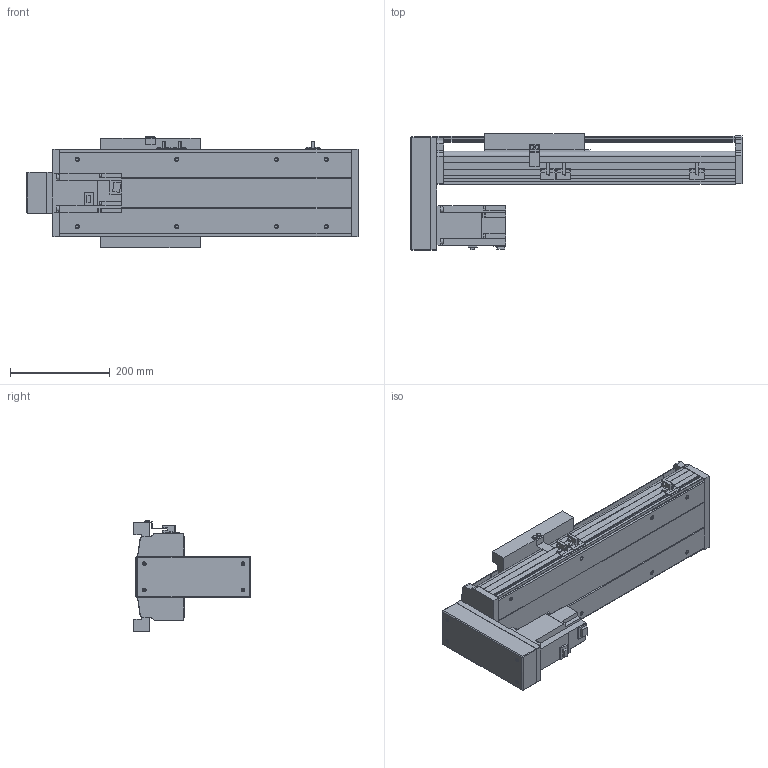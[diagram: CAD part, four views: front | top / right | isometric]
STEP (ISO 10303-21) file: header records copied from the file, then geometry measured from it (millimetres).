
FILE_DESCRIPTION( ( 'STEP AP214' ), '1' );
FILE_NAME( 'x:/temp/worker_27/temp/exporttempdir_6708_420_0wU4X/format_0/PSS200-L10-S250-BM-T75-C1-N(0).stp', '2022-06-06T02:44:21', ( 'License CC BY-ND 4.0' ), ( 'CADENAS' ), ' ', 'PARTsolutions', ' ' );
FILE_SCHEMA( ( 'AUTOMOTIVE_DESIGN { 1 0 10303 214 1 1 1 1 }' ) );
Length unit declared in the file: millimetre
Products named in the file (8): PSS200-L10-S250-BM-T75-C1-N(0); _PSS200-S250-BM-C1-N_body; _PSS200-N_Q; _PSS200-BM-C1-N_sl; _PSS200-N_sensor; _PSS200BM-N_h; _T75-p1; _PSS200-S250-BM-N_S
Assembly tree (9 placements, depth 2):
  PSS200-L10-S250-BM-T75-C1-N(0)
    _PSS200-S250-BM-C1-N_body
    _PSS200-N_Q
    _PSS200-BM-C1-N_sl
    _PSS200-N_sensor  x3
    _PSS200BM-N_h
    _T75-p1
    _PSS200-S250-BM-N_S
Bounding box: 666.85 x 234.45 x 223.86 mm (x, y, z)
Volume: 5910713.9 mm3; surface area: 1193227.7 mm2
Topology: 9 solids, 9 shells, 590 faces, 1577 edges, 1046 vertices
Faces by surface type: plane 452, cylinder 118, cone 16, sphere 4
Full cylindrical faces by diameter (mm): 4 x2, 4.5 x4, 6 x7, 6.647 x12, 7.4 x4, 8 x8, 10 x6, 25 x1, 40 x1, 67 x1
Entity records: 20669 total; most frequent: CARTESIAN_POINT 2869, DIRECTION 2707, ORIENTED_EDGE 2698, EDGE_CURVE 1349, LINE 1071, VECTOR 1071, VERTEX_POINT 932, AXIS2_PLACEMENT_3D 818
